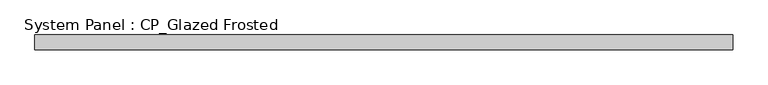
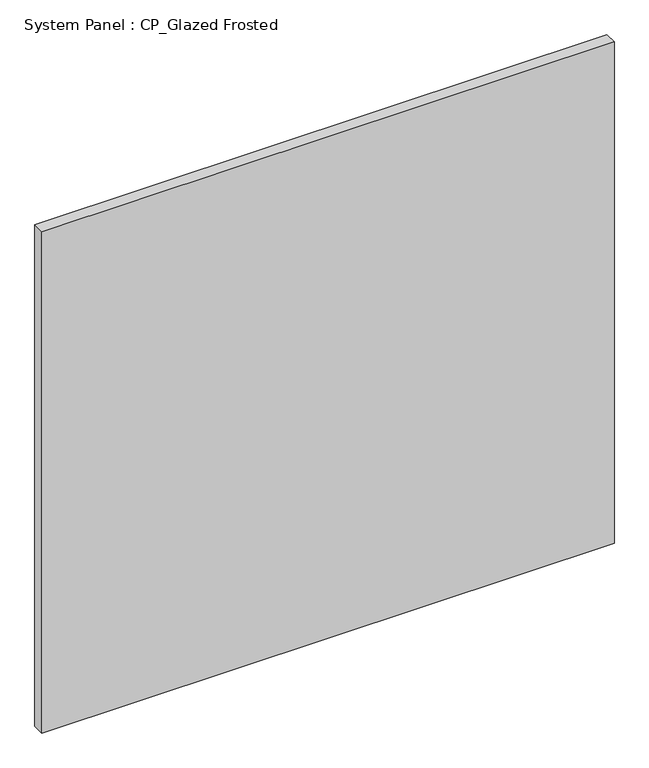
"""IFC4 building model written with IfcOpenShell, lengths in millimetres: plate geometry, System Panel : CP_Glazed Frosted."""

import ifcopenshell
import ifcopenshell.guid

model = None  # the IFC model being written
_history = None  # IfcOwnerHistory: only IFC2X3 demands one
_inside = {}  # id of a spatial element -> (the spatial element, [elements in it])
_under = {}  # id of a project, library or spatial element -> (it, [spatial elements below it])
_declared = {}  # id of a project -> (the project, [libraries it declares])
_typed = {}  # id of a type object -> (the type object, [elements of that type])
_made_of = {}  # id of a material, layer set ... -> (it, [elements and type objects made of it])


def new_model(schema):
    """Start an empty IFC model of exactly this schema.

    Asked for "IFC4X3", IfcOpenShell would pick the latest addendum, in which some entities
    have other attributes; the version numbers below select the first issue.
    IFC2X3 requires an IfcOwnerHistory on every rooted entity: one is made here for all.
    """
    global model, _history
    if schema == "IFC4X3":
        model = ifcopenshell.file(schema_version=(4, 3, 0, 0))
    else:
        model = ifcopenshell.file(schema=schema)
    _inside.clear()
    _under.clear()
    _declared.clear()
    _typed.clear()
    _made_of.clear()
    _history = None
    if model.schema == "IFC2X3":
        org = make("IfcOrganization", Name="unknown")
        user = make(
            "IfcPersonAndOrganization",
            ThePerson=make("IfcPerson", FamilyName="unknown"),
            TheOrganization=org,
        )
        app = make(
            "IfcApplication",
            ApplicationDeveloper=org,
            Version="unknown",
            ApplicationFullName="unknown",
            ApplicationIdentifier="unknown",
        )
        _history = make(
            "IfcOwnerHistory",
            OwningUser=user,
            OwningApplication=app,
            ChangeAction="ADDED",
            CreationDate=0,
        )
    return model


def make(cls, **values):
    """One entity of the class cls with the attributes given. An attribute that is None is left unset."""
    return model.create_entity(
        cls, **{name: value for name, value in values.items() if value is not None}
    )


def rooted(cls, **values):
    """An entity with a GlobalId (a new one), such as an element, a storey or a relation."""
    return make(cls, GlobalId=ifcopenshell.guid.new(), OwnerHistory=_history, **values)


def si_unit(unit_type, name, prefix=None):
    """IfcSIUnit, for example si_unit("LENGTHUNIT", "METRE", prefix="MILLI")."""
    return make("IfcSIUnit", UnitType=unit_type, Prefix=prefix, Name=name)


def assignment(units):
    """IfcUnitAssignment: the units of a project."""
    return None if units is None else make("IfcUnitAssignment", Units=units)


def point(xyz):
    """IfcCartesianPoint."""
    return None if xyz is None else make("IfcCartesianPoint", Coordinates=xyz)


def direction(xyz):
    """IfcDirection."""
    return None if xyz is None else make("IfcDirection", DirectionRatios=xyz)


def frame(location, z_axis=None, x_axis=None):
    """IfcAxis2Placement3D, a coordinate frame: its origin and axes. An axis left out is left unset."""
    return make(
        "IfcAxis2Placement3D",
        Location=point(location),
        Axis=direction(z_axis),
        RefDirection=direction(x_axis),
    )


def origin():
    """The frame at (0, 0, 0) with its axes left unset."""
    return frame((0.0, 0.0, 0.0))


def origin_with_axes():
    """The frame at (0, 0, 0) with the z axis (0, 0, 1) and the x axis (1, 0, 0) written out."""
    return frame((0.0, 0.0, 0.0), z_axis=(0.0, 0.0, 1.0), x_axis=(1.0, 0.0, 0.0))


def place(relative_to, where):
    """IfcLocalPlacement: puts the frame where relative to a parent placement (None: the world)."""
    return make(
        "IfcLocalPlacement", PlacementRelTo=relative_to, RelativePlacement=where
    )


def context(
    kind, dimensions, precision=None, world=None, true_north=None, identifier=None
):
    """IfcGeometricRepresentationContext, for example the 3D "Model" context."""
    return make(
        "IfcGeometricRepresentationContext",
        ContextIdentifier=identifier,
        ContextType=kind,
        CoordinateSpaceDimension=dimensions,
        Precision=precision,
        WorldCoordinateSystem=world,
        TrueNorth=true_north,
    )


def project(units=None, contexts=None):
    """IfcProject with its units and contexts."""
    return rooted(
        "IfcProject",
        Name="project",
        RepresentationContexts=contexts,
        UnitsInContext=assignment(units),
    )


def spatial(cls, under=None, at=None, **own):
    """A site, building, storey or space (cls), placed at a placement, below another one or the project."""
    s = rooted(cls, ObjectPlacement=at, **own)
    if under is not None:
        _under.setdefault(under.id(), (under, []))[1].append(s)
    return s


def polyline(points):
    """IfcPolyline through the points."""
    return make("IfcPolyline", Points=[point(p) for p in points])


def outline(outer, holes=None, kind="AREA"):
    """IfcArbitraryClosedProfileDef: a profile drawn as a closed curve; with holes, ...WithVoids."""
    if holes is None:
        return make("IfcArbitraryClosedProfileDef", ProfileType=kind, OuterCurve=outer)
    return make(
        "IfcArbitraryProfileDefWithVoids",
        ProfileType=kind,
        OuterCurve=outer,
        InnerCurves=holes,
    )


def extrude(swept, where, along, depth):
    """IfcExtrudedAreaSolid: the profile swept, set in the frame where, extruded along a direction by depth."""
    return make(
        "IfcExtrudedAreaSolid",
        SweptArea=swept,
        Position=where,
        ExtrudedDirection=direction(along),
        Depth=depth,
    )


def shape(context_of_items, identifier, shape_type, items):
    """IfcShapeRepresentation: the items that make up one representation, for example the "Body"."""
    return make(
        "IfcShapeRepresentation",
        ContextOfItems=context_of_items,
        RepresentationIdentifier=identifier,
        RepresentationType=shape_type,
        Items=items,
    )


def source(mapping_origin, context_of_items, identifier, shape_type, items):
    """IfcRepresentationMap: a shape defined once, which mapped items show again and again."""
    return make(
        "IfcRepresentationMap",
        MappingOrigin=mapping_origin,
        MappedRepresentation=shape(context_of_items, identifier, shape_type, items),
    )


def transform(
    local_origin,
    x_axis=None,
    y_axis=None,
    z_axis=None,
    scale=None,
    scale2=None,
    scale3=None,
    uniform=True,
):
    """IfcCartesianTransformationOperator3D, or its non-uniform kind. x_axis, y_axis, z_axis: its Axis1, 2, 3."""
    if uniform:
        return make(
            "IfcCartesianTransformationOperator3D",
            Axis1=direction(x_axis),
            Axis2=direction(y_axis),
            LocalOrigin=point(local_origin),
            Scale=scale,
            Axis3=direction(z_axis),
        )
    return make(
        "IfcCartesianTransformationOperator3DnonUniform",
        Axis1=direction(x_axis),
        Axis2=direction(y_axis),
        LocalOrigin=point(local_origin),
        Scale=scale,
        Axis3=direction(z_axis),
        Scale2=scale2,
        Scale3=scale3,
    )


def mapped(mapping_source, mapping_target):
    """IfcMappedItem: shows the shape of a source again, moved by a transform."""
    return make(
        "IfcMappedItem", MappingSource=mapping_source, MappingTarget=mapping_target
    )


def made_of(thing, what):
    """Note that an element or type object is made of a material, layer set ...; save() writes the relation."""
    if what is not None:
        _made_of.setdefault(what.id(), (what, []))[1].append(thing)
    return thing


def element(
    cls,
    number,
    at=None,
    inside=None,
    cuts=None,
    type_object=None,
    material=None,
    context=None,
    identifier="Body",
    shape_type=None,
    held_by="IfcProductDefinitionShape",
    body=None,
    shapes=None,
    **own,
):
    """One element of the class cls, such as IfcWall. Its Tag is "e" and its number.

    at: its placement. inside: the storey or other place that contains it. cuts: it is an
    opening in that element (IfcRelVoidsElement). A single representation is given by context,
    identifier, shape_type and body (its items); several are given by shapes. held_by: the class
    of the entity that holds the representations. save() writes the other relations.
    """
    e = rooted(cls, Tag="e%d" % number, ObjectPlacement=at, **own)
    if body is not None:
        shapes = [shape(context, identifier, shape_type, body)]
    if shapes is not None:
        e.Representation = make(held_by, Representations=shapes)
    if inside is not None:
        _inside.setdefault(inside.id(), (inside, []))[1].append(e)
    if cuts is not None:
        rooted(
            "IfcRelVoidsElement", RelatingBuildingElement=cuts, RelatedOpeningElement=e
        )
    if type_object is not None:
        _typed.setdefault(type_object.id(), (type_object, []))[1].append(e)
    return made_of(e, material)


def aggregate(whole, parts):
    """IfcRelAggregates: a whole, such as a stair, and the parts it consists of."""
    return rooted("IfcRelAggregates", RelatingObject=whole, RelatedObjects=parts)


def save(model, path):
    """Write the relations noted so far, then the file.

    IfcRelAggregates (storeys below a building ...), IfcRelContainedInSpatialStructure (elements
    in a storey), IfcRelDefinesByType, IfcRelAssociatesMaterial and IfcRelDeclares: one each for
    every whole, place, type object, material and project.
    """
    for whole, parts in _under.values():
        aggregate(whole, parts)
    for where, things in _inside.values():
        rooted(
            "IfcRelContainedInSpatialStructure",
            RelatedElements=things,
            RelatingStructure=where,
        )
    for kind, things in _typed.values():
        rooted("IfcRelDefinesByType", RelatedObjects=things, RelatingType=kind)
    for what, things in _made_of.values():
        rooted("IfcRelAssociatesMaterial", RelatedObjects=things, RelatingMaterial=what)
    for by, libraries in _declared.values():
        rooted("IfcRelDeclares", RelatingContext=by, RelatedDefinitions=libraries)
    model.write(path)


def system_panel_cp_glazed_frosted_b29fd585(model_context):
    return source(origin(), model_context, "Body", "SweptSolid", [
        extrude(outline(polyline([(596.503125, 19.05), (-596.503125, 19.05), (-596.503125, 44.45), (596.503125, 44.45), (596.503125, 19.05)])), origin_with_axes(), (0.0, 0.0, 1.0), 1104.9),
    ])


if __name__ == "__main__":
    model = new_model("IFC4")
    model_context = context("Model", 3, world=origin())
    ifc_project = project(units=[si_unit("LENGTHUNIT", "METRE", prefix="MILLI")], contexts=[model_context])
    site = spatial("IfcSite", under=ifc_project)
    building = spatial("IfcBuilding", under=site)
    placement = place(None, origin())
    system_panel_cp_glazed_frosted_shape = system_panel_cp_glazed_frosted_b29fd585(model_context)
    element("IfcPlate", 1, ObjectType="System Panel : CP_Glazed Frosted", at=placement, inside=building, context=model_context, shape_type="MappedRepresentation", body=[
        mapped(system_panel_cp_glazed_frosted_shape, transform((0.0, 0.0, 0.0), x_axis=(1.0, 0.0, 0.0), y_axis=(0.0, 1.0, 0.0), z_axis=(0.0, 0.0, 1.0))),
    ])
    save(model, "model.ifc")
